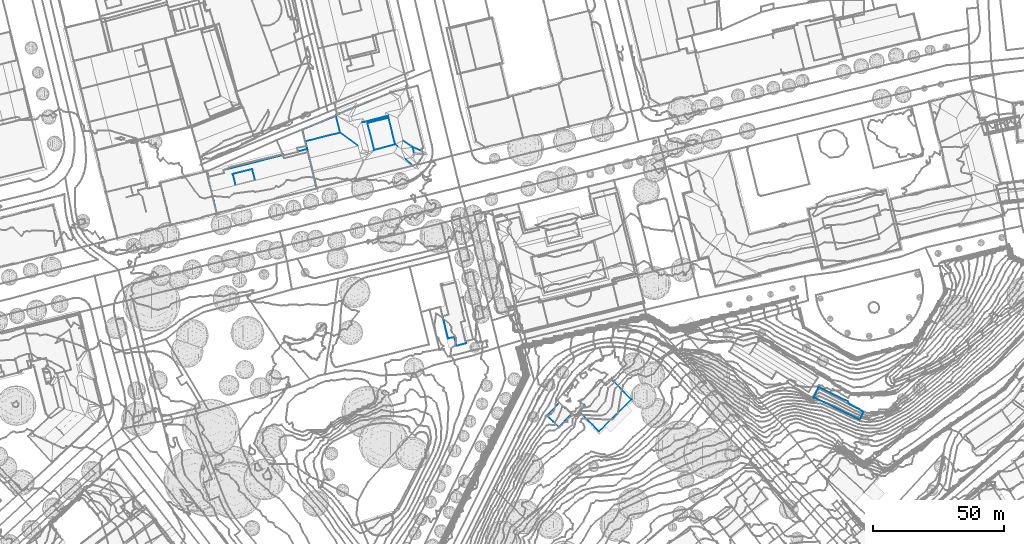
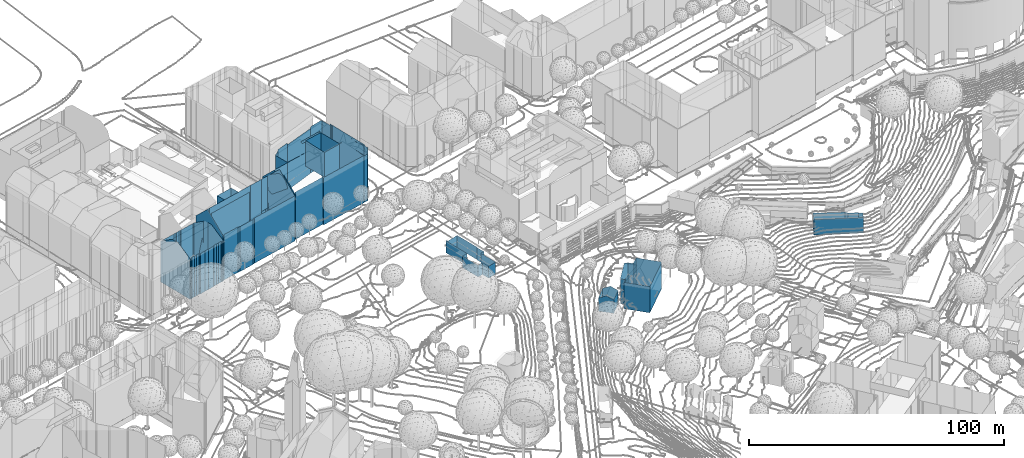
# Not in any storey, part 45 of 477: 7 walls.
"""IFC4 building model written with IfcOpenShell, lengths in metres."""

from ifc_helpers import new_model, si_unit, frame, origin_with_axes, place, context, subcontext, project, spatial, polygons, element, save


model = new_model("IFC4")

# Units and contexts
model_context = context("Model", 3, precision=1e-05, world=origin_with_axes())
body_context = subcontext(model_context, "Body", "Model", "MODEL_VIEW")
ifc_project = project(units=[si_unit("AREAUNIT", "SQUARE_METRE"), si_unit("LENGTHUNIT", "METRE")], contexts=[model_context])

# Sites, building
site_1_placement = place(None, origin_with_axes())
site_1 = spatial("IfcSite", under=ifc_project, at=site_1_placement, Name="Topoexport Site")
site_2_placement = place(site_1_placement, origin_with_axes())
site_2 = spatial("IfcSite", under=site_1, at=site_2_placement, Name="TPX_BUILDINGS")
building_1_placement = place(site_2_placement, frame((281.5977320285, 336.7850160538, 537.4764), z_axis=(0.0, 0.0, 1.0), x_axis=(1.0, 0.0, 0.0)))
building_1 = spatial("IfcBuilding", under=site_2, at=building_1_placement, Name="Building 100", CompositionType="ELEMENT")

# Wall
wall_1_placement = place(None, frame((281.5977320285, 336.7850160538, 537.4764), z_axis=(0.0, 0.0, 1.0), x_axis=(1.0, 0.0, 0.0)))
element("IfcWall", 1, at=wall_1_placement, inside=building_1, Name="Wall 0", context=body_context, shape_type="Tessellation", body=[
    polygons([(0.612999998, -0.6094000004, 0.0), (5.5299999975, 0.6005999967, 5.9764), (0.612999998, -0.6094000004, 5.7084), (5.5299999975, 0.6004999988, 0.0), (0.436999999, 0.1074000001, 5.7084), (0.436999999, 0.1074000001, 0.0), (0.0, 0.0, 0.0), (0.0, 0.0, 5.6844), (2.879999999, -11.7002000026, -0.0001), (2.879999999, -11.7002000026, 5.6874), (0.5489999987, -12.2744000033, 5.5604), (0.5489999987, -12.2745000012, -0.0001), (2.6399999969, -20.7715000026, -0.0001), (4.9839999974, -20.193400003, 5.6904), (4.9839999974, -20.193400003, -0.0001), (2.6399999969, -20.7715000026, 5.5624), (5.799999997, -23.5655000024, 5.6904), (5.799999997, -23.5655000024, -0.0001), (9.5009999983, -22.6465000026, -0.0001), (7.5019999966, -14.5274000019, 5.8904), (7.5019999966, -14.5274000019, -0.0001), (9.5009999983, -22.6465000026, 5.8924), (9.1529999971, -14.121100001, -0.0001), (9.1529999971, -14.121100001, 5.9804), (9.1149999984, -13.9659000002, -0.0001), (9.1149999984, -13.9659000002, 5.9804), (8.9499999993, -14.005900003, -0.0001), (8.9499999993, -14.005900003, 5.9714), (8.0949999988, -10.5293000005, -0.0001), (8.0949999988, -10.5293000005, 5.9704), (8.2589999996, -10.4893000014, -0.0001), (8.2589999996, -10.4893000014, 5.9794)], [[[3, 2, 1]], [[4, 1, 2]], [[6, 5, 1]], [[7, 5, 6]], [[7, 8, 5]], [[10, 7, 9]], [[7, 10, 8]], [[12, 11, 10]], [[10, 9, 12]], [[13, 11, 12]], [[15, 14, 13]], [[13, 14, 16]], [[14, 18, 17]], [[15, 18, 14]], [[19, 17, 18]], [[21, 20, 19]], [[20, 22, 19]], [[24, 20, 23]], [[21, 23, 20]], [[26, 23, 25]], [[28, 25, 27]], [[30, 27, 29]], [[31, 30, 29]], [[4, 2, 31]], [[5, 3, 1]], [[11, 13, 16]], [[17, 19, 22]], [[24, 23, 26]], [[25, 28, 26]], [[28, 27, 30]], [[31, 32, 30]], [[32, 31, 2]]]),
])

# Building
building_2_placement = place(site_2_placement, frame((334.3647320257, 288.1229160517, 521.6208), z_axis=(0.0, 0.0, 1.0), x_axis=(1.0, 0.0, 0.0)))
building_2 = spatial("IfcBuilding", under=site_2, at=building_2_placement, Name="Building 101", CompositionType="ELEMENT")

# Wall
wall_2_placement = place(None, frame((334.3647320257, 288.1229160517, 521.6208), z_axis=(0.0, 0.0, 1.0), x_axis=(1.0, 0.0, 0.0)))
element("IfcWall", 2, at=wall_2_placement, inside=building_2, Name="Wall 0", context=body_context, shape_type="Tessellation", body=[
    polygons([(7.3359999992, -7.4990999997, -0.0001), (4.9020000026, -5.0108000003, 12.5957), (7.2990000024, -7.4619999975, 12.5817), (4.9189999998, -5.0293000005, -0.0001), (2.3610000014, -2.4131000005, 0.0), (0.0529999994, -0.053799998, 12.6237), (3.2270000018, -3.2989000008, 12.6047), (0.0, 0.0, 0.0), (0.0, 0.0, 12.5478), (12.3990000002, 12.1347000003, 12.6028), (12.4539999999, 12.0800000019, 0.0), (12.444000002, 12.0898000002, 12.6667), (12.3450000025, 12.1904000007, 0.0), (10.1410000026, 10.0252999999, 12.5208), (10.1410000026, 10.0252999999, 0.0), (10.8709999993, 10.7431000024, 12.5218), (9.932, 10.2391999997, 12.2188), (9.7870000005, 10.3857000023, 12.0108), (9.7870000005, 10.3857000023, 0.0), (2.0670000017, 2.0810000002, 0.0), (1.8509999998, 2.3016999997, 12.2018), (2.0670000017, 2.0810000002, 12.5148), (1.8230000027, 2.3300000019, 2.7767), (1.5490000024, 2.6093000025, 0.0), (9.1050000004, 11.0800000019, 12.0098), (8.4849999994, 11.7118999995, 12.0098), (8.4849999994, 11.7118999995, 0.0), (3.1440000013, 6.4550000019, 0.0), (5.8910000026, 9.1590999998, 14.2546), (4.5730000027, 7.8612999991, 15.3955), (7.262000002, 10.508700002, 3.5656), (5.5510000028, 8.8242000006, 0.0), (2.0920000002, 5.4178999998, 13.3047), (0.4150000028, 3.7675000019, 0.0), (0.4150000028, 3.7675000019, 11.8918), (1.6339999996, 2.5223999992, 11.8888), (14.7550000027, 9.7373000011, 12.6727), (15.0030000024, 9.4843000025, 0.0), (19.6040000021, 4.7998000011, -0.0001), (12.3450000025, 12.1904000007, 12.5248), (7.3359999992, -7.4990999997, 12.5277), (19.7280000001, 4.6728000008, 12.5007), (19.7280000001, 4.6728000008, -0.0001), (19.6040000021, 4.7998000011, 12.6847)], [[[3, 2, 1]], [[2, 4, 1]], [[5, 4, 2]], [[7, 6, 5]], [[8, 5, 6]], [[9, 8, 6]], [[12, 11, 10]], [[11, 13, 10]], [[16, 15, 14]], [[16, 13, 15]], [[19, 18, 17]], [[14, 15, 17]], [[17, 15, 19]], [[22, 21, 20]], [[21, 24, 23]], [[23, 24, 20]], [[22, 20, 8]], [[27, 26, 25]], [[18, 19, 25]], [[25, 19, 27]], [[30, 29, 28]], [[32, 28, 31]], [[31, 28, 29]], [[29, 26, 31]], [[31, 27, 32]], [[27, 31, 26]], [[34, 33, 28]], [[34, 35, 33]], [[21, 36, 24]], [[35, 34, 24]], [[12, 37, 11]], [[11, 37, 38]], [[39, 38, 37]], [[2, 7, 5]], [[13, 40, 10]], [[40, 13, 16]], [[20, 21, 23]], [[9, 22, 8]], [[33, 30, 28]], [[36, 35, 24]], [[3, 1, 41]], [[43, 42, 1]], [[41, 1, 42]], [[44, 42, 39]], [[42, 43, 39]], [[44, 39, 37]]]),
])

# Building
building_3_placement = place(site_2_placement, frame((321.8457320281, 286.6092160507, 525.7514), z_axis=(0.0, 0.0, 1.0), x_axis=(1.0, 0.0, 0.0)))
building_3 = spatial("IfcBuilding", under=site_2, at=building_3_placement, Name="Building 102", CompositionType="ELEMENT")

# Wall
wall_3_placement = place(None, frame((321.8457320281, 286.6092160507, 525.7514), z_axis=(0.0, 0.0, 1.0), x_axis=(1.0, 0.0, 0.0)))
element("IfcWall", 3, at=wall_3_placement, inside=building_3, Name="Wall 0", context=body_context, shape_type="Tessellation", body=[
    polygons([(9.254999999, 0.5937000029, 6.3204), (7.0099999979, 2.7529000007, 7.8402), (7.0059999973, 2.7568000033, 0.0), (9.254999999, 0.5937000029, 0.0), (2.2979999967, -2.2109999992, 7.8402), (4.4759999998, -4.3046999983, 6.3654), (2.4149999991, -2.3222999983, 0.0), (4.4759999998, -4.3046999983, 0.0), (6.8849999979, -1.8359999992, 6.3424), (0.0, 0.0, 0.0), (4.7419999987, 4.9326000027, 0.0), (4.7419999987, 4.9326000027, 6.3164), (0.0, 0.0, 6.2964)], [[[3, 2, 1]], [[3, 1, 4]], [[7, 6, 5]], [[6, 7, 8]], [[1, 9, 4]], [[4, 9, 6]], [[6, 8, 4]], [[12, 11, 10]], [[7, 5, 10]], [[13, 10, 5]], [[2, 3, 12]], [[11, 12, 3]], [[10, 13, 12]]]),
])

# Building
building_4_placement = place(site_2_placement, frame((423.4767320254, 293.5516160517, 522.4066), z_axis=(0.0, 0.0, 1.0), x_axis=(1.0, 0.0, 0.0)))
building_4 = spatial("IfcBuilding", under=site_2, at=building_4_placement, Name="Building 104", CompositionType="ELEMENT")

# Wall
wall_4_placement = place(None, frame((423.4767320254, 293.5516160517, 522.4066), z_axis=(0.0, 0.0, 1.0), x_axis=(1.0, 0.0, 0.0)))
element("IfcWall", 4, at=wall_4_placement, inside=building_4, Name="Wall 0", context=body_context, shape_type="Tessellation", body=[
    polygons([(18.2609999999, -5.2245999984, 0.0), (18.9730000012, -5.6679999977, 7.4133), (18.2609999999, -5.2245999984, 7.4133), (17.5970000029, -4.7608000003, 0.0), (17.5970000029, -4.7608000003, 7.4133), (17.6620000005, -4.6279999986, 0.0), (17.6620000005, -4.6279999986, 7.4133), (16.2400000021, -3.9208999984, 0.0), (16.2400000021, -3.9208999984, 7.4133), (13.950000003, -2.7333999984, 0.0), (13.950000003, -2.7333999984, 7.4133), (13.1080000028, -1.6152999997, 0.0), (13.1080000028, -1.6152999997, 7.4133), (1.9079999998, 3.9648000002, 0.0), (1.9079999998, 3.9648000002, 7.4133), (0.0, 0.0, 0.0), (0.0, 0.0, 7.4133), (17.6070000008, -8.4765999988, 0.0), (17.6070000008, -8.4765999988, 7.4133), (18.9730000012, -5.6679999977, 0.0)], [[[3, 2, 1]], [[5, 3, 4]], [[7, 5, 6]], [[9, 7, 8]], [[11, 9, 10]], [[13, 11, 12]], [[15, 13, 14]], [[17, 15, 16]], [[19, 17, 18]], [[2, 19, 20]], [[2, 20, 1]], [[3, 1, 4]], [[5, 4, 6]], [[7, 6, 8]], [[9, 8, 10]], [[11, 10, 12]], [[13, 12, 14]], [[15, 14, 16]], [[17, 16, 18]], [[19, 18, 20]]]),
])

# Building
building_5_placement = place(site_2_placement, frame((228.7347320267, 395.6180160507, 538.6455), z_axis=(0.0, 0.0, 1.0), x_axis=(1.0, 0.0, 0.0)))
building_5 = spatial("IfcBuilding", under=site_2, at=building_5_placement, Name="Building 199", CompositionType="ELEMENT")

# Wall
wall_5_placement = place(None, frame((228.7347320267, 395.6180160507, 538.6455), z_axis=(0.0, 0.0, 1.0), x_axis=(1.0, 0.0, 0.0)))
element("IfcWall", 5, at=wall_5_placement, inside=building_5, Name="Wall 0", context=body_context, shape_type="Tessellation", body=[
    polygons([(42.0009999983, -6.7197999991, 24.2085), (42.4719999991, -8.6963, 24.3585), (42.0009999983, -6.7197999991, 24.2475), (38.2118999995, -4.1495999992, 28.3073), (45.5839999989, -8.2216999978, 21.6777), (45.5839999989, -8.2216999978, 21.8627), (35.2960000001, -5.6269999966, 24.7045), (35.2960000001, -5.6269999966, 24.9944), (36.1510000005, -6.3896999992, 25.7694), (41.8900000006, -13.7060999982, 21.6377), (41.8900000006, -13.7060999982, 21.8977), (39.0839999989, -11.1718999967, 24.2185), (23.4340000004, 2.9277000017, 23.8787), (23.4340000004, 2.9277000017, 25.1876), (22.5219999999, 2.7060000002, 25.1776), (14.3409999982, -1.1757999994, 20.396), (14.3409999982, -1.1757999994, 20.598), (21.1030000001, -6.2157999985, 26.7433), (45.432, -7.6074999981, 22.2057), (45.4869999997, -7.5966999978, 22.1507), (45.432, -7.6074000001, 16.4902), (45.5789999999, -7.5781999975, -0.6581), (45.432, -7.6074000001, 5.0583), (45.432, -7.6074000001, -0.6581), (45.5009999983, -7.2392999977, 16.3783), (45.5009999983, -7.2392999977, 22.0577), (45.5009999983, -7.2392999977, -0.6581), (41.7010000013, 10.7568000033, -0.658), (46.0969999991, -7.0956999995, 13.1186), (46.0969999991, -7.0956999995, 21.4548), (46.0969999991, -7.0956999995, 4.7824), (46.0969999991, -7.0956999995, -0.6581), (41.0969999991, 10.6133000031, -0.658), (41.7010000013, 10.7568000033, 21.5719), (41.0969999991, 10.6132000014, 22.1839), (41.0150000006, 10.9521000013, 22.1849), (41.0150000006, 10.9521000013, -0.658), (40.8720000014, 10.9052000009, 5.0895), (40.8720000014, 10.9052000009, 10.8369), (40.8720000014, 10.9052000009, -0.658), (33.7459999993, 14.1084000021, 15.8135), (33.7239999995, 14.2002000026, 4.8355), (33.7459999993, 14.1084000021, 21.306), (33.7239999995, 14.2002000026, 15.8215), (33.7459999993, 14.1084000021, -0.6579), (33.7239999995, 14.2002000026, -0.6579), (14.2630000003, 6.2158000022, -0.6579), (14.2630000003, 6.2158000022, 21.9489), (14.3020000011, 6.0175000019, 21.9489), (14.3020000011, 6.0175000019, 4.9935), (14.3020000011, 6.0175000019, 10.645), (14.3020000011, 6.0175999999, -0.6579), (20.0040000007, 8.4599000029, 16.0675), (19.9609999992, 8.5508000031, 21.6479), (20.0040000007, 8.4599000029, 4.9145), (19.9609999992, 8.5508000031, 4.9185), (19.9609999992, 8.5508000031, -0.6579), (20.0040000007, 8.4599000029, -0.6579), (45.9539999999, -9.5722999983, 16.1823), (45.9140000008, -9.5478999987, 10.5978), (45.9739999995, -9.5839999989, 13.3455), (45.9140000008, -9.5478999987, -0.6581), (45.9140000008, -9.5478999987, 21.8547), (46.0339999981, -9.620099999, 16.0933), (46.074000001, -9.6445999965, 21.6767), (46.074000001, -9.6445999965, -0.6581), (43.8099999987, -13.3740999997, 21.5707), (43.6389999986, -13.2792999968, 16.1533), (43.6389999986, -13.2792999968, 21.7577), (43.8099999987, -13.3740999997, -0.6581), (43.6389999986, -13.2792999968, 10.5498), (43.6389999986, -13.2792999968, 4.9453), (43.6389999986, -13.2792999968, -0.6581), (20.4659999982, -19.0888999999, 13.3915), (20.3409999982, -18.5625, -0.6581), (20.4659999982, -19.0888999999, 22.1207), (27.3429999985, -7.7919999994, 12.8646), (27.3429999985, -7.7919999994, 24.8125), (12.7360000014, 5.2226000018, 9.4711), (12.7609999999, 5.0957000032, 20.598), (12.7609999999, 5.0957000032, 9.4711), (12.7360000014, 5.2226000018, 0.0), (12.7609999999, 5.0957000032, 0.0), (12.7609999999, 5.0957000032, -0.6579), (12.7109999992, 5.3545000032, -0.6579), (12.7109999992, 5.3545000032, 20.598), (14.3409999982, -1.1757999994, -0.658), (14.3409999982, -1.1757999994, 0.0), (27.3429999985, -7.7919999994, -0.6581), (24.7540000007, 2.5117000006, -0.163), (24.7540000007, 2.5117000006, -0.658), (27.3429999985, -7.7919999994, -0.1632), (19.8557000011, -18.6816999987, 22.0237), (19.8469999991, -18.6845999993, -0.6581), (19.8524000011, -18.6827999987, 13.4985), (5.686999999, -22.1630999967, -0.6581), (5.743999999, -22.4120999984, 21.8337), (5.686999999, -22.1630999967, 10.6988), (5.743999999, -22.4120999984, -0.6581), (1.1110000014, -4.4423999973, -0.6579), (1.1110000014, -4.4423999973, 0.0), (32.6160000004, 5.2646000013, 24.9276), (31.7120000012, 5.0254000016, 23.8787), (32.8740000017, 5.3310000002, 25.1746), (35.2960000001, -5.6269999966, -0.6581), (32.8029999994, 4.5224000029, -0.163), (35.2960000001, -5.6269999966, -0.1632), (1.436999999, -6.2275999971, -0.0001), (0.0, 0.0, 9.4711), (1.436999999, -6.2275999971, 9.471), (1.4510000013, -6.2812999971, -0.0001), (1.4510000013, -6.2812999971, 9.471), (14.3409999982, -1.1757999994, 9.4711), (1.1110000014, -4.4423999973, 9.4711), (1.1110000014, -4.4423999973, 20.396), (1.943, -7.923899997, -0.0001), (1.943, -7.923899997, 9.471), (0.0, 0.0, 0.0), (24.7540000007, 2.5117000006, 12.8648), (24.7540000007, 2.5117000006, 25.1536), (32.8029999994, 4.5224000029, 24.9386), (35.2960000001, -5.6269999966, 12.8646), (32.8029999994, 4.5224000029, 12.8647), (32.8029999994, 4.5224000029, -0.658), (32.8949999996, 4.5459000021, 25.0356), (45.7930000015, -7.1689999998, -0.6581), (45.7930000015, -7.1689999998, 21.7637), (34.006000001, 14.2695000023, -0.6579), (39.3669999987, 15.5918000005, -0.658), (39.6970000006, 15.6728000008, -0.658), (33.7239999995, 14.2002000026, 21.315), (39.3669999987, 15.5918000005, 21.8629), (34.006000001, 14.2695000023, 21.6229), (39.6970000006, 15.6728000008, 21.5699), (19.2870000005, 8.2744000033, 22.1179), (14.4899999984, 6.308600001, 22.1409), (14.2630000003, 6.2158000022, 16.2964), (19.8900000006, 8.5215000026, 21.7129), (44.7459999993, -11.8320999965, 21.6147), (44.7459999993, -11.8320999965, -0.6581), (45.8889999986, -9.4463, 21.9267), (45.8729999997, -9.3808999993, 21.8827), (45.7699999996, -8.9706999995, 21.6527), (45.9140000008, -9.5478999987, 16.2263), (45.5329999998, -8.0156999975, 22.2007), (45.875, -9.3886999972, -0.6581), (45.5830000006, -8.2167999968, -0.6581), (45.7699999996, -8.9706999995, -0.6581), (41.7179999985, -13.7480999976, 22.1007), (41.7179999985, -13.7480999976, -0.6581), (41.7430000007, -13.8838, -0.6581), (41.7430000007, -13.8838, 22.0307), (41.7280000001, -13.8037, 22.1067), (43.5269999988, -13.3066999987, -0.6581), (43.3740000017, -13.3447999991, -0.6581), (42.9640000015, -13.4443999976, -0.6581), (43.3740000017, -13.3447999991, 21.7527), (43.5269999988, -13.3066999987, 21.8337), (42.9620000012, -13.4443999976, 21.6717), (20.4659999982, -19.0888999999, -0.6581), (21.995000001, -18.7148999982, 22.1097), (19.8709999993, -18.6787, 22.0747), (20.2829999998, -18.5761999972, 22.6207), (20.3409999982, -18.5625, 22.6207), (20.3409999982, -18.5625, 8.0711), (19.8630000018, -18.6806999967, -0.6581), (13.1319999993, 5.5293000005, -0.6579), (12.9129999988, 5.4384000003, 20.768), (12.8839999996, 5.4267000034, 20.8), (14.3020000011, 6.0175000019, 16.2974), (13.1319999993, 5.5293000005, 20.955), (5.4219999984, -22.4912, 21.8347), (5.4219999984, -22.4912, -0.6581), (18.6689999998, -18.9736999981, 22.0267), (19.8449999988, -18.6845999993, 22.0237), (19.8449999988, -18.6845999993, 13.4985), (16.0890000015, -19.6074999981, -0.6581), (16.0890000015, -19.6074999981, 22.0277), (5.686999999, -22.1630999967, 22.0557), (3.3779999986, -13.9375, 26.6823), (2.6319999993, -10.807599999, 26.7433), (5.0789999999, -21.0566999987, 23.1126), (5.0789999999, -21.0566999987, -0.6581), (3.8020000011, -15.7118999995, 26.6483), (3.9670000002, -16.4013999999, 27.3472), (3.8020000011, -15.7118999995, -0.6581), (3.9670000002, -16.4013999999, -0.6581), (3.3779999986, -13.9375, -0.6581), (2.6319999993, -10.807599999, -0.6581), (40.7969999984, 11.2109000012, 21.9159), (40.745000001, 11.4199000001, 21.6309), (40.8720000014, 10.9052000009, 16.5854), (40.4200000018, 12.7412, 21.6579), (40.4200000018, 12.7412, -0.658), (40.8429999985, 11.0224000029, 22.3338), (40.745000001, 11.4199000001, -0.658), (40.7969999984, 11.2109000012, -0.658), (40.8720000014, 10.9052000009, 22.3328), (21.1499999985, 8.9306000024, -0.6579), (21.9149999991, 9.2451000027, -0.6579), (22.6240000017, 9.5371000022, -0.6579), (33.7459999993, 14.1084000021, 10.32), (32.6750000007, 13.6689000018, -0.6579), (20.3790000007, 8.6133000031, 21.304), (20.0040000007, 8.4599000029, 21.6439), (21.1499999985, 8.9306000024, 21.297), (22.6240000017, 9.5371000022, 21.251), (21.9149999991, 9.2451000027, 21.273), (32.6750000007, 13.6689000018, 20.934), (33.3299999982, 13.9375, 20.906), (33.5219999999, 14.0166000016, 21.05), (45.5417999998, -7.5849999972, 22.0957)], [[[3, 2, 1]], [[4, 3, 1]], [[6, 1, 5]], [[9, 8, 7]], [[12, 11, 10]], [[15, 14, 13]], [[18, 17, 16]], [[21, 20, 19]], [[23, 22, 21]], [[22, 23, 24]], [[26, 22, 25]], [[27, 25, 22]], [[30, 29, 28]], [[31, 28, 29]], [[32, 28, 31]], [[35, 34, 33]], [[34, 28, 33]], [[37, 36, 35]], [[35, 33, 37]], [[39, 36, 38]], [[40, 38, 37]], [[43, 42, 41]], [[43, 44, 42]], [[42, 46, 45]], [[49, 48, 47]], [[51, 47, 50]], [[50, 47, 52]], [[55, 54, 53]], [[54, 55, 56]], [[55, 58, 57]], [[61, 60, 59]], [[60, 61, 62]], [[64, 61, 63]], [[66, 62, 65]], [[69, 68, 67]], [[67, 71, 70]], [[72, 70, 71]], [[72, 73, 70]], [[76, 75, 74]], [[78, 7, 77]], [[81, 80, 79]], [[84, 83, 82]], [[79, 86, 85]], [[86, 79, 80]], [[82, 85, 84]], [[85, 82, 79]], [[88, 83, 87]], [[91, 90, 89]], [[92, 89, 90]], [[95, 94, 93]], [[98, 97, 96]], [[97, 99, 96]], [[101, 88, 100]], [[13, 14, 102]], [[102, 103, 13]], [[104, 102, 14]], [[107, 106, 105]], [[110, 109, 108]], [[112, 110, 111]], [[16, 17, 80]], [[16, 81, 113]], [[115, 16, 114]], [[117, 112, 116]], [[109, 79, 118]], [[92, 107, 89]], [[120, 78, 119]], [[7, 8, 121]], [[7, 123, 122]], [[106, 90, 124]], [[120, 119, 123]], [[120, 121, 125]], [[120, 123, 121]], [[31, 126, 32]], [[126, 31, 27]], [[31, 29, 27]], [[25, 30, 127]], [[25, 127, 26]], [[27, 29, 25]], [[25, 29, 30]], [[46, 42, 128]], [[42, 129, 128]], [[129, 42, 130]], [[42, 44, 130]], [[132, 44, 131]], [[132, 131, 133]], [[134, 44, 132]], [[44, 134, 130]], [[137, 136, 135]], [[135, 138, 137]], [[54, 137, 138]], [[48, 136, 137]], [[137, 54, 56]], [[137, 56, 47]], [[47, 56, 57]], [[66, 65, 139]], [[140, 67, 70]], [[140, 66, 67]], [[67, 66, 139]], [[142, 141, 63]], [[142, 63, 143]], [[143, 63, 144]], [[19, 6, 5]], [[6, 19, 145]], [[5, 144, 21]], [[21, 144, 60]], [[5, 21, 19]], [[143, 144, 5]], [[23, 60, 62]], [[60, 23, 21]], [[23, 62, 146]], [[23, 147, 24]], [[148, 147, 23]], [[23, 146, 148]], [[151, 150, 149]], [[149, 153, 152]], [[149, 152, 151]], [[154, 73, 72]], [[154, 72, 155]], [[150, 72, 71]], [[155, 72, 156]], [[150, 156, 72]], [[71, 149, 150]], [[69, 158, 157]], [[157, 159, 69]], [[69, 159, 68]], [[10, 149, 71]], [[68, 159, 10]], [[11, 149, 10]], [[10, 71, 68]], [[74, 151, 152]], [[74, 160, 151]], [[152, 161, 74]], [[76, 74, 161]], [[164, 163, 162]], [[164, 166, 165]], [[166, 75, 165]], [[50, 85, 51]], [[50, 167, 85]], [[167, 50, 52]], [[86, 169, 168]], [[86, 168, 170]], [[51, 86, 170]], [[171, 49, 170]], [[168, 171, 170]], [[86, 51, 85]], [[99, 97, 172]], [[99, 172, 173]], [[176, 175, 174]], [[176, 177, 94]], [[178, 176, 174]], [[178, 179, 98]], [[98, 96, 177]], [[176, 98, 177]], [[98, 176, 178]], [[181, 115, 180]], [[117, 182, 180]], [[172, 182, 117]], [[183, 173, 172]], [[172, 117, 183]], [[182, 184, 180]], [[182, 185, 184]], [[115, 117, 180]], [[114, 117, 115]], [[116, 101, 100]], [[187, 117, 186]], [[117, 189, 188]], [[188, 186, 117]], [[189, 116, 100]], [[189, 117, 116]], [[117, 187, 183]], [[192, 191, 190]], [[134, 193, 130]], [[39, 194, 191]], [[130, 193, 194]], [[193, 191, 194]], [[190, 195, 192]], [[192, 39, 191]], [[194, 39, 196]], [[196, 39, 38]], [[197, 196, 38]], [[40, 197, 38]], [[192, 195, 198]], [[200, 199, 55]], [[55, 199, 58]], [[55, 202, 201]], [[201, 202, 203]], [[201, 200, 55]], [[202, 45, 203]], [[55, 53, 202]], [[53, 205, 204]], [[53, 204, 206]], [[208, 207, 53]], [[206, 208, 53]], [[53, 207, 41]], [[41, 202, 53]], [[41, 207, 209]], [[41, 209, 210]], [[211, 43, 41]], [[210, 211, 41]], [[20, 22, 212]], [[22, 20, 21]], [[212, 22, 26]], [[34, 30, 28]], [[198, 36, 192]], [[39, 192, 36]], [[36, 37, 38]], [[202, 41, 42]], [[42, 45, 202]], [[131, 44, 43]], [[49, 47, 170]], [[51, 170, 47]], [[205, 53, 54]], [[55, 57, 56]], [[61, 64, 62]], [[63, 59, 144]], [[63, 61, 59]], [[60, 144, 59]], [[64, 63, 65]], [[68, 71, 67]], [[75, 160, 74]], [[164, 165, 76]], [[75, 76, 165]], [[7, 122, 77]], [[83, 84, 87]], [[175, 94, 166]], [[162, 166, 164]], [[162, 175, 166]], [[98, 179, 97]], [[88, 87, 100]], [[106, 124, 105]], [[109, 118, 108]], [[110, 108, 111]], [[80, 81, 16]], [[16, 113, 114]], [[112, 111, 116]], [[79, 82, 118]], [[107, 105, 89]], [[78, 77, 119]], [[121, 123, 7]], [[90, 91, 124]]]),
])

# Building
building_6_placement = place(site_2_placement, frame((192.1757320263, 379.5145160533, 538.5554), z_axis=(0.0, 0.0, 1.0), x_axis=(1.0, 0.0, 0.0)))
building_6 = spatial("IfcBuilding", under=site_2, at=building_6_placement, Name="Building 229", CompositionType="ELEMENT")

# Wall
wall_6_placement = place(None, frame((192.1757320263, 379.5145160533, 538.5554), z_axis=(0.0, 0.0, 1.0), x_axis=(1.0, 0.0, 0.0)))
element("IfcWall", 6, at=wall_6_placement, inside=building_6, Name="Wall 0", context=body_context, shape_type="Tessellation", body=[
    polygons([(4.2919999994, -15.683600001, -0.9389), (4.3449999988, -15.8975000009, 20.62), (4.2919999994, -15.683600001, 20.827), (4.3449999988, -15.8975000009, -0.9389), (11.9180000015, -13.8038000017, 20.797), (11.9180000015, -13.8038000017, -0.939), (11.9349999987, -13.9004000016, 20.705), (11.9349999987, -13.9004000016, -0.939), (12.7780000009, -13.7002000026, 20.695), (12.7780000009, -13.7002000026, -0.939), (12.7970000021, -13.7930000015, 20.606), (3.9620000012, -15.9922000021, 20.622), (19.6649999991, -11.9814999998, -0.939), (19.6889999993, -12.0870000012, -0.939), (19.6649999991, -11.9814999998, 20.691), (20.504999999, -11.7919999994, 20.673), (20.504999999, -11.7919999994, -0.939), (20.4829999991, -11.683600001, 20.774), (20.4829999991, -11.683600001, -0.939), (41.9809999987, -6.3877000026, 9.855), (41.9809999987, -6.3877000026, -0.939), (36.9420000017, -7.6289000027, -0.939), (6.7259999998, -0.5030000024, -0.9389), (6.4389999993, 0.6464000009, 22.4748), (6.7259999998, -0.5030000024, 23.6177), (0.2219999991, -0.8956000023, 6.9833), (0.5670000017, -0.808600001, 6.9833), (0.2219999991, -0.8956000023, 22.4578), (38.3509999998, 8.6717999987, 6.9833), (34.8090000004, 7.7840999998, 22.4578), (34.8090000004, 7.7840999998, 6.9833), (38.3509999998, 8.6717999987, 0.0), (34.8090000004, 7.7840999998, 0.0), (34.8090000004, 7.7840999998, -0.9389), (38.3819999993, 8.6805999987, -0.9389), (38.3819999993, 8.6805999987, 22.4578), (6.5610000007, 0.6952999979, -0.9389), (29.1900000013, 6.373999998, 0.0), (6.5610000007, 0.6952999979, 0.0), (34.5139999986, 9.0887999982, 0.0), (37.993999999, 9.875, 6.9833), (34.5139999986, 9.0887999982, 6.9833), (0.0, 0.0, 0.0), (0.3489999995, 0.0877999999, 6.9833), (0.0, 0.0, 6.9833), (38.7160000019, 7.4463, 0.0), (39.2149999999, 5.4384000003, 6.9833), (38.7160000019, 7.4461999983, 6.9833), (0.8410000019, -1.9375, -0.9389), (0.8410000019, -1.9375, 23.5787), (0.2219999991, -0.8956000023, -0.9389), (0.5670000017, -0.808600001, 0.0), (0.2219999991, -0.8955000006, 0.0), (29.2349999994, 6.1952999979, 13.7917), (34.8520000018, 7.5946999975, 22.6448), (29.2349999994, 6.1952999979, 22.6358), (29.2349999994, 6.1952999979, -0.9389), (34.8520000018, 7.5946999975, -0.9389), (6.5610000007, 0.6952999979, 6.9833), (8.5780000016, 1.2010999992, 19.4131), (6.5610000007, 0.6952999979, 22.4578), (29.1900000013, 6.373999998, 22.4578), (8.5780000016, 1.2010999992, 6.9833), (29.1900000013, 6.373999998, 19.4131), (38.5159999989, 8.120099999, 0.0), (38.5159999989, 8.120099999, 6.9833), (37.993999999, 9.875, 0.0), (39.2151000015, 5.4384999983, 0.0), (39.1590999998, 5.4237999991, 6.9833), (8.5080000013, 1.4794999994, 19.4131), (9.9880000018, -0.7998000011, 24.6616), (9.9880000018, -0.7998999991, 28.5792), (11.0020000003, -4.8476999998, 28.6892), (17.3969999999, 1.0594999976, 24.6626), (18.4120000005, -2.9873000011, 28.6892), (17.3969999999, 1.0594999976, 28.5792), (19.6889999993, -12.0870000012, 20.592), (13.3830000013, -13.6475000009, 20.604), (12.7970000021, -13.7930000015, -0.939), (41.9809999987, -6.3877000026, 20.71), (41.6380000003, -4.9532000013, 22.0628), (39.936999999, 2.1659999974, 28.9202), (41.6380000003, -4.9532000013, -0.939), (39.1590000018, 5.4237999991, 0.0), (39.936999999, 2.1659999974, -0.939), (9.6050000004, 1.9208999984, 0.0), (29.0920000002, 6.7674999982, 19.4131), (9.6050000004, 1.9208999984, 19.4131), (3.9620000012, -15.9922000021, -0.9389), (1.8319999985, -7.3955000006, -0.9389), (1.8319999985, -7.3956000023, 28.9202), (0.3489999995, 0.0877999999, 0.0), (0.5670000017, -0.808600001, -0.9389), (0.5670000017, -0.808600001, 22.4578), (6.439100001, 0.6464999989, -0.9389), (8.5080000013, 1.4794999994, 6.9833), (29.0920000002, 6.7674999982, 0.0), (29.1900000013, 6.373999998, -0.9389)], [[[3, 2, 1]], [[4, 1, 2]], [[1, 6, 5]], [[3, 1, 5]], [[8, 7, 6]], [[7, 8, 9]], [[10, 9, 8]], [[11, 9, 10]], [[4, 2, 12]], [[15, 14, 13]], [[17, 16, 13]], [[16, 19, 18]], [[19, 16, 17]], [[22, 21, 20]], [[20, 19, 22]], [[25, 24, 23]], [[28, 27, 26]], [[31, 30, 29]], [[34, 33, 32]], [[29, 36, 35]], [[36, 29, 30]], [[32, 35, 34]], [[35, 32, 29]], [[39, 38, 37]], [[42, 41, 40]], [[45, 44, 43]], [[48, 47, 46]], [[50, 23, 49]], [[53, 52, 51]], [[56, 55, 54]], [[54, 58, 57]], [[61, 60, 59]], [[60, 61, 62]], [[59, 60, 63]], [[64, 60, 62]], [[66, 48, 65]], [[41, 29, 67]], [[47, 69, 68]], [[70, 63, 60]], [[73, 72, 71]], [[76, 75, 74]], [[72, 74, 71]], [[78, 14, 77]], [[78, 11, 79]], [[78, 79, 14]], [[81, 80, 69]], [[82, 81, 36]], [[35, 36, 66]], [[36, 81, 66]], [[81, 69, 66]], [[35, 66, 65]], [[20, 21, 83]], [[20, 84, 69]], [[35, 84, 85]], [[35, 65, 84]], [[85, 84, 20]], [[20, 83, 85]], [[69, 80, 20]], [[58, 55, 30]], [[40, 31, 42]], [[30, 31, 58]], [[33, 34, 58]], [[88, 87, 86]], [[90, 89, 12]], [[91, 90, 12]], [[43, 53, 45]], [[91, 26, 90]], [[90, 53, 51]], [[53, 90, 26]], [[52, 92, 27]], [[93, 52, 49]], [[27, 49, 52]], [[27, 92, 44]], [[27, 50, 49]], [[27, 94, 50]], [[24, 61, 59]], [[59, 95, 24]], [[59, 39, 95]], [[95, 39, 37]], [[70, 88, 96]], [[39, 96, 86]], [[86, 96, 88]], [[97, 54, 38]], [[54, 97, 87]], [[98, 38, 57]], [[57, 38, 54]], [[62, 56, 64]], [[54, 87, 64]], [[54, 64, 56]], [[5, 6, 7]], [[79, 11, 10]], [[89, 4, 12]], [[15, 77, 14]], [[13, 16, 15]], [[18, 20, 80]], [[20, 18, 19]], [[24, 95, 23]], [[94, 27, 28]], [[38, 98, 37]], [[41, 67, 40]], [[44, 92, 43]], [[47, 68, 46]], [[25, 23, 50]], [[52, 93, 51]], [[55, 58, 54]], [[48, 46, 65]], [[29, 32, 67]], [[69, 84, 68]], [[96, 63, 70]], [[76, 74, 72]], [[31, 33, 58]], [[33, 31, 40]], [[87, 97, 86]], [[53, 26, 45]], [[28, 26, 91]], [[59, 96, 39]]]),
])

# Building
building_7_placement = place(site_2_placement, frame((174.5787320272, 375.3924160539, 537.4785), z_axis=(0.0, 0.0, 1.0), x_axis=(1.0, 0.0, 0.0)))
building_7 = spatial("IfcBuilding", under=site_2, at=building_7_placement, Name="Building 231", CompositionType="ELEMENT")

# Wall
wall_7_placement = place(None, frame((174.5787320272, 375.3924160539, 537.4785), z_axis=(0.0, 0.0, 1.0), x_axis=(1.0, 0.0, 0.0)))
element("IfcWall", 7, at=wall_7_placement, inside=building_7, Name="Wall 0", context=body_context, shape_type="Tessellation", body=[
    polygons([(19.0960000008, -1.9277000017, 0.0), (19.9679999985, -5.4502000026, 0.0), (19.0960000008, -1.9277000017, 23.7517), (2.4510000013, -9.818400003, 0.0), (1.5749999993, -6.2988000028, 23.7517), (2.4510000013, -9.818400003, 23.7517), (0.3969999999, 0.0507999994, 0.0), (6.9699999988, 1.6620999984, 0.0), (0.3969999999, 0.0507999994, 19.5291), (6.9699999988, 1.6620999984, 19.5471), (0.3849999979, 0.0986000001, 0.0), (0.3849999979, 0.0986000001, 19.4971), (0.0, 0.0, 0.0), (0.0, 0.0, 19.4981), (0.2809999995, -1.1045000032, 0.0), (0.2809999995, -1.1045000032, 20.2451), (1.5749999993, -6.2988000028, 0.0), (18.2819999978, 1.3583999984, 0.0), (17.5500000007, 4.3104999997, 19.5411), (17.5500000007, 4.3104999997, 0.0), (18.7100000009, -0.371100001, 22.6998), (18.248999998, 1.4891999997, 21.4449), (18.7100000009, -0.3692000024, 4.8845), (17.1999999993, 4.2206999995, 19.5421), (17.1999999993, 4.2206999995, 0.0), (17.2129999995, 4.1679999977, 0.0), (10.6730000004, 2.5643999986, 19.5601), (17.2129999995, 4.1679999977, 19.5771), (10.6730000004, 2.5643999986, 0.0), (10.6440000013, 2.6699000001, 0.0), (9.4670000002, 2.375, 19.4891), (9.4670000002, 2.375, 0.0), (9.5449999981, 2.0780999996, 0.0), (9.5449999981, 2.0780999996, 19.6901), (8.2049999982, 1.748999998, 0.0), (8.2049999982, 1.748999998, 19.6871), (8.1479999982, 2.0673999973, 19.4761), (8.1479999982, 2.0673999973, 0.0), (6.9459999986, 1.7645999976, 0.0), (6.9459999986, 1.7645999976, 19.4781), (4.0529999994, -16.2578000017, 0.0), (4.2109999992, -16.2168000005, 19.4571), (4.4800000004, -16.1475000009, 0.0), (4.0529999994, -16.2578000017, 19.4561), (4.4800000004, -16.1475000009, 19.4591), (4.4479999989, -16.0469000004, 19.5271), (4.9749999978, -15.9160000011, 19.5271), (4.4479999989, -16.0469000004, 0.0), (4.9749999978, -15.9160000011, 0.0), (4.9620000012, -15.8555000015, 0.0), (4.9620000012, -15.8555000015, 19.5671), (6.3159999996, -15.5078000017, 0.0), (6.3159999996, -15.5078000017, 19.5731), (6.3350000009, -15.5800999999, 0.0), (6.3350000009, -15.5800999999, 19.5251), (7.4659999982, -15.2979000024, 0.0), (7.4659999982, -15.2979000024, 19.5251), (7.4479999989, -15.2314999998, 19.5691), (7.447900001, -15.2314999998, 0.0), (8.7690000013, -14.9004000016, 0.0), (8.7690000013, -14.9004000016, 19.5701), (8.7859999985, -14.9707000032, 19.5231), (9.3709999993, -14.9912, 0.0), (9.3319999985, -14.8360000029, 0.0), (9.3319999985, -14.8360000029, 19.5231), (11.8640000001, -14.3740000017, 19.4161), (11.8640000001, -14.3740000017, 0.0), (9.3709999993, -14.9912, 19.4191), (11.8819999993, -14.3125, 19.4521), (11.8819999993, -14.3125, 0.0), (13.6970000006, -13.8633000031, 19.4491), (13.6970000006, -13.8633000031, 0.0), (13.7369999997, -13.9004000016, 19.4201), (13.7370999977, -13.9002999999, 0.0), (16.2399999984, -13.2793000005, 19.4181), (16.2399999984, -13.2793000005, 0.0), (16.2089999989, -13.1524000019, 19.5021), (16.2089999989, -13.1524000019, 0.0), (16.7139999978, -13.0274000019, 19.5021), (16.7139999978, -13.0274000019, 0.0), (16.686999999, -12.9209000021, 19.5731), (16.686999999, -12.9209000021, 0.0), (18.0549999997, -12.5820000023, 19.5721), (18.0549999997, -12.5820000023, 0.0), (18.0819999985, -12.688500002, 19.5001), (18.0819999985, -12.688500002, 0.0), (19.1779999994, -12.4180000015, 0.0), (19.1779999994, -12.4180000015, 19.4991), (19.1519999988, -12.3106000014, 0.0), (19.1519999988, -12.3106000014, 19.5701), (20.5309999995, -11.9688000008, 19.5691), (20.5309999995, -11.9688000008, 0.0), (20.5579999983, -12.0752000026, 0.0), (20.5579999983, -12.0752000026, 19.4981), (20.9519999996, -11.9776000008, 19.4971), (20.9519999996, -11.9776000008, 0.0), (20.938000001, -11.9209000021, 19.5351), (20.938000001, -11.9209000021, 0.0), (21.0500000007, -11.8925999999, 0.0), (21.074000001, -11.9902000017, 0.0), (21.074000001, -11.9902000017, 19.4701), (21.5590000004, -11.8701000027, 0.0), (20.8099999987, -8.8496000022, 0.0), (20.7890000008, -8.7627000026, 21.5419), (20.3660000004, -7.0557000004, 7.8362), (20.3660000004, -7.0547000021, 22.6818), (21.5590000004, -11.8701000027, 19.4701), (19.9679999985, -5.4502000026, 23.7517), (10.6440000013, 2.6699000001, 19.4881), (8.7859999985, -14.9707000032, 0.0), (21.0500000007, -11.8925999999, 19.5351)], [[[3, 2, 1]], [[6, 5, 4]], [[9, 8, 7]], [[10, 8, 9]], [[12, 7, 11]], [[7, 12, 9]], [[14, 12, 13]], [[12, 11, 13]], [[16, 13, 15]], [[14, 13, 16]], [[5, 16, 17]], [[20, 19, 18]], [[22, 21, 18]], [[21, 1, 23]], [[23, 1, 18]], [[19, 25, 24]], [[19, 20, 25]], [[24, 25, 26]], [[28, 26, 27]], [[29, 27, 26]], [[32, 31, 30]], [[34, 31, 33]], [[31, 32, 33]], [[36, 33, 35]], [[38, 37, 35]], [[37, 36, 35]], [[40, 39, 8]], [[43, 42, 41]], [[42, 44, 41]], [[46, 45, 43]], [[48, 47, 46]], [[47, 48, 49]], [[51, 47, 50]], [[47, 49, 50]], [[51, 50, 52]], [[54, 53, 52]], [[54, 55, 53]], [[57, 54, 56]], [[57, 55, 54]], [[59, 58, 57]], [[57, 56, 59]], [[58, 59, 60]], [[60, 62, 61]], [[65, 64, 63]], [[67, 66, 63]], [[66, 68, 63]], [[70, 69, 66]], [[70, 66, 67]], [[69, 72, 71]], [[69, 70, 72]], [[74, 73, 71]], [[71, 72, 74]], [[73, 74, 75]], [[76, 75, 74]], [[78, 77, 75]], [[75, 76, 78]], [[80, 79, 77]], [[80, 77, 78]], [[82, 81, 80]], [[81, 79, 80]], [[84, 83, 81]], [[81, 82, 84]], [[86, 85, 84]], [[88, 85, 87]], [[85, 86, 87]], [[89, 88, 87]], [[92, 91, 90]], [[90, 89, 92]], [[94, 92, 93]], [[92, 94, 91]], [[96, 95, 94]], [[94, 93, 96]], [[95, 98, 97]], [[97, 98, 99]], [[101, 99, 100]], [[101, 100, 102]], [[105, 104, 103]], [[105, 2, 106]], [[2, 105, 103]], [[107, 102, 103]], [[44, 4, 41]], [[4, 44, 6]], [[108, 2, 3]], [[5, 17, 4]], [[16, 15, 17]], [[18, 21, 23]], [[22, 18, 19]], [[3, 1, 21]], [[28, 24, 26]], [[27, 30, 109]], [[30, 27, 29]], [[109, 30, 31]], [[34, 33, 36]], [[37, 39, 40]], [[37, 38, 39]], [[8, 10, 40]], [[45, 42, 43]], [[48, 46, 43]], [[52, 53, 51]], [[58, 60, 61]], [[110, 62, 60]], [[62, 64, 65]], [[62, 110, 64]], [[68, 65, 63]], [[83, 84, 85]], [[88, 89, 90]], [[95, 96, 98]], [[99, 111, 97]], [[111, 99, 101]], [[107, 101, 102]], [[106, 104, 105]], [[104, 107, 103]], [[2, 108, 106]]]),
])

save(model, "model.ifc")
